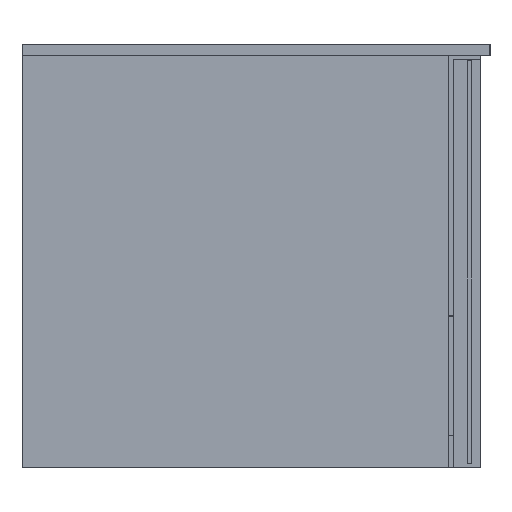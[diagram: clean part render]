
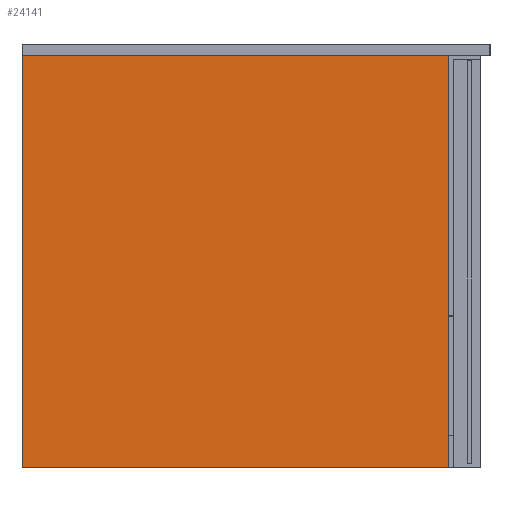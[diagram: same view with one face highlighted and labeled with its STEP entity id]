
A CAD part, left-side view. The second image highlights one B-rep face of the part: STEP entity #24141.
In plain terms, the highlighted planar face has unit normal (-1, 0, 0).
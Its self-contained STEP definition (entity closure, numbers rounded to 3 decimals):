
#843 = CARTESIAN_POINT ( 'NONE',  ( 45461.519, 17022.379, 0. ) ) ;
#1114 = CARTESIAN_POINT ( 'NONE',  ( 45461.519, 17487.379, 0. ) ) ;
#2667 = DIRECTION ( 'NONE',  ( 0., 0., -1. ) ) ;
#3380 = AXIS2_PLACEMENT_3D ( 'NONE', #23731, #15142, #26045 ) ;
#3727 = PLANE ( 'NONE',  #3380 ) ;
#4406 = ORIENTED_EDGE ( 'NONE', *, *, #20191, .F. ) ;
#5446 = VERTEX_POINT ( 'NONE', #843 ) ;
#8079 = VERTEX_POINT ( 'NONE', #13079 ) ;
#8963 = DIRECTION ( 'NONE',  ( 0., -1., 0. ) ) ;
#9862 = CARTESIAN_POINT ( 'NONE',  ( 45461.519, 17022.379, 450. ) ) ;
#9969 = DIRECTION ( 'NONE',  ( 0., -1., 0. ) ) ;
#10531 = VECTOR ( 'NONE', #2667, 1000. ) ;
#10563 = VERTEX_POINT ( 'NONE', #1114 ) ;
#11783 = VECTOR ( 'NONE', #8963, 1000. ) ;
#12035 = DIRECTION ( 'NONE',  ( 0., 0., 1. ) ) ;
#12373 = EDGE_CURVE ( 'NONE', #8079, #23208, #25112, .T. ) ;
#12566 = ORIENTED_EDGE ( 'NONE', *, *, #17371, .T. ) ;
#13079 = CARTESIAN_POINT ( 'NONE',  ( 45461.519, 17487.379, 450. ) ) ;
#15142 = DIRECTION ( 'NONE',  ( -1., 0., 0. ) ) ;
#15334 = EDGE_LOOP ( 'NONE', ( #12566, #4406, #17798, #19805 ) ) ;
#15602 = LINE ( 'NONE', #16139, #24772 ) ;
#16139 = CARTESIAN_POINT ( 'NONE',  ( 45461.519, 17487.379, 0. ) ) ;
#17371 = EDGE_CURVE ( 'NONE', #10563, #5446, #22639, .T. ) ;
#17700 = CARTESIAN_POINT ( 'NONE',  ( 45461.519, 17022.379, 0. ) ) ;
#17798 = ORIENTED_EDGE ( 'NONE', *, *, #12373, .F. ) ;
#19805 = ORIENTED_EDGE ( 'NONE', *, *, #25181, .F. ) ;
#20191 = EDGE_CURVE ( 'NONE', #23208, #5446, #23410, .T. ) ;
#22406 = FACE_OUTER_BOUND ( 'NONE', #15334, .T. ) ;
#22639 = LINE ( 'NONE', #24429, #24229 ) ;
#23208 = VERTEX_POINT ( 'NONE', #9862 ) ;
#23410 = LINE ( 'NONE', #17700, #10531 ) ;
#23731 = CARTESIAN_POINT ( 'NONE',  ( 45461.519, 17022.379, 0. ) ) ;
#24141 = ADVANCED_FACE ( 'NONE', ( #22406 ), #3727, .T. ) ;
#24229 = VECTOR ( 'NONE', #9969, 1000. ) ;
#24429 = CARTESIAN_POINT ( 'NONE',  ( 45461.519, 17254.879, 0. ) ) ;
#24772 = VECTOR ( 'NONE', #12035, 1000. ) ;
#24975 = CARTESIAN_POINT ( 'NONE',  ( 45461.519, 17254.879, 450. ) ) ;
#25112 = LINE ( 'NONE', #24975, #11783 ) ;
#25181 = EDGE_CURVE ( 'NONE', #10563, #8079, #15602, .T. ) ;
#26045 = DIRECTION ( 'NONE',  ( 0., 0., 1. ) ) ;
